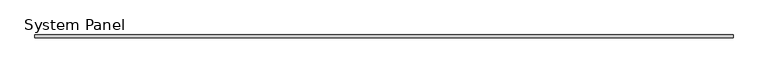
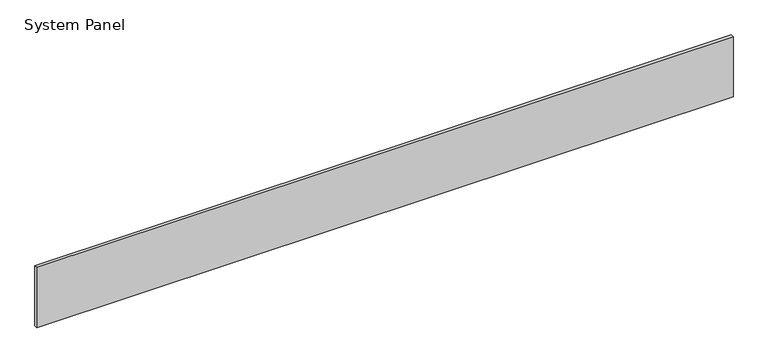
"""IFC4 building model written with IfcOpenShell, lengths in millimetres: plate geometry, System Panel : MetecnoPanel_50mm_Plain_Surfmist."""

import ifcopenshell
import ifcopenshell.guid

model = None  # the IFC model being written
_history = None  # IfcOwnerHistory: only IFC2X3 demands one
_inside = {}  # id of a spatial element -> (the spatial element, [elements in it])
_under = {}  # id of a project, library or spatial element -> (it, [spatial elements below it])
_declared = {}  # id of a project -> (the project, [libraries it declares])
_typed = {}  # id of a type object -> (the type object, [elements of that type])
_made_of = {}  # id of a material, layer set ... -> (it, [elements and type objects made of it])


def new_model(schema):
    """Start an empty IFC model of exactly this schema.

    Asked for "IFC4X3", IfcOpenShell would pick the latest addendum, in which some entities
    have other attributes; the version numbers below select the first issue.
    IFC2X3 requires an IfcOwnerHistory on every rooted entity: one is made here for all.
    """
    global model, _history
    if schema == "IFC4X3":
        model = ifcopenshell.file(schema_version=(4, 3, 0, 0))
    else:
        model = ifcopenshell.file(schema=schema)
    _inside.clear()
    _under.clear()
    _declared.clear()
    _typed.clear()
    _made_of.clear()
    _history = None
    if model.schema == "IFC2X3":
        org = make("IfcOrganization", Name="unknown")
        user = make(
            "IfcPersonAndOrganization",
            ThePerson=make("IfcPerson", FamilyName="unknown"),
            TheOrganization=org,
        )
        app = make(
            "IfcApplication",
            ApplicationDeveloper=org,
            Version="unknown",
            ApplicationFullName="unknown",
            ApplicationIdentifier="unknown",
        )
        _history = make(
            "IfcOwnerHistory",
            OwningUser=user,
            OwningApplication=app,
            ChangeAction="ADDED",
            CreationDate=0,
        )
    return model


def make(cls, **values):
    """One entity of the class cls with the attributes given. An attribute that is None is left unset."""
    return model.create_entity(
        cls, **{name: value for name, value in values.items() if value is not None}
    )


def rooted(cls, **values):
    """An entity with a GlobalId (a new one), such as an element, a storey or a relation."""
    return make(cls, GlobalId=ifcopenshell.guid.new(), OwnerHistory=_history, **values)


def si_unit(unit_type, name, prefix=None):
    """IfcSIUnit, for example si_unit("LENGTHUNIT", "METRE", prefix="MILLI")."""
    return make("IfcSIUnit", UnitType=unit_type, Prefix=prefix, Name=name)


def assignment(units):
    """IfcUnitAssignment: the units of a project."""
    return None if units is None else make("IfcUnitAssignment", Units=units)


def point(xyz):
    """IfcCartesianPoint."""
    return None if xyz is None else make("IfcCartesianPoint", Coordinates=xyz)


def direction(xyz):
    """IfcDirection."""
    return None if xyz is None else make("IfcDirection", DirectionRatios=xyz)


def frame(location, z_axis=None, x_axis=None):
    """IfcAxis2Placement3D, a coordinate frame: its origin and axes. An axis left out is left unset."""
    return make(
        "IfcAxis2Placement3D",
        Location=point(location),
        Axis=direction(z_axis),
        RefDirection=direction(x_axis),
    )


def origin():
    """The frame at (0, 0, 0) with its axes left unset."""
    return frame((0.0, 0.0, 0.0))


def origin_with_axes():
    """The frame at (0, 0, 0) with the z axis (0, 0, 1) and the x axis (1, 0, 0) written out."""
    return frame((0.0, 0.0, 0.0), z_axis=(0.0, 0.0, 1.0), x_axis=(1.0, 0.0, 0.0))


def place(relative_to, where):
    """IfcLocalPlacement: puts the frame where relative to a parent placement (None: the world)."""
    return make(
        "IfcLocalPlacement", PlacementRelTo=relative_to, RelativePlacement=where
    )


def context(
    kind, dimensions, precision=None, world=None, true_north=None, identifier=None
):
    """IfcGeometricRepresentationContext, for example the 3D "Model" context."""
    return make(
        "IfcGeometricRepresentationContext",
        ContextIdentifier=identifier,
        ContextType=kind,
        CoordinateSpaceDimension=dimensions,
        Precision=precision,
        WorldCoordinateSystem=world,
        TrueNorth=true_north,
    )


def project(units=None, contexts=None):
    """IfcProject with its units and contexts."""
    return rooted(
        "IfcProject",
        Name="project",
        RepresentationContexts=contexts,
        UnitsInContext=assignment(units),
    )


def spatial(cls, under=None, at=None, **own):
    """A site, building, storey or space (cls), placed at a placement, below another one or the project."""
    s = rooted(cls, ObjectPlacement=at, **own)
    if under is not None:
        _under.setdefault(under.id(), (under, []))[1].append(s)
    return s


def polyline(points):
    """IfcPolyline through the points."""
    return make("IfcPolyline", Points=[point(p) for p in points])


def outline(outer, holes=None, kind="AREA"):
    """IfcArbitraryClosedProfileDef: a profile drawn as a closed curve; with holes, ...WithVoids."""
    if holes is None:
        return make("IfcArbitraryClosedProfileDef", ProfileType=kind, OuterCurve=outer)
    return make(
        "IfcArbitraryProfileDefWithVoids",
        ProfileType=kind,
        OuterCurve=outer,
        InnerCurves=holes,
    )


def extrude(swept, where, along, depth):
    """IfcExtrudedAreaSolid: the profile swept, set in the frame where, extruded along a direction by depth."""
    return make(
        "IfcExtrudedAreaSolid",
        SweptArea=swept,
        Position=where,
        ExtrudedDirection=direction(along),
        Depth=depth,
    )


def shape(context_of_items, identifier, shape_type, items):
    """IfcShapeRepresentation: the items that make up one representation, for example the "Body"."""
    return make(
        "IfcShapeRepresentation",
        ContextOfItems=context_of_items,
        RepresentationIdentifier=identifier,
        RepresentationType=shape_type,
        Items=items,
    )


def source(mapping_origin, context_of_items, identifier, shape_type, items):
    """IfcRepresentationMap: a shape defined once, which mapped items show again and again."""
    return make(
        "IfcRepresentationMap",
        MappingOrigin=mapping_origin,
        MappedRepresentation=shape(context_of_items, identifier, shape_type, items),
    )


def transform(
    local_origin,
    x_axis=None,
    y_axis=None,
    z_axis=None,
    scale=None,
    scale2=None,
    scale3=None,
    uniform=True,
):
    """IfcCartesianTransformationOperator3D, or its non-uniform kind. x_axis, y_axis, z_axis: its Axis1, 2, 3."""
    if uniform:
        return make(
            "IfcCartesianTransformationOperator3D",
            Axis1=direction(x_axis),
            Axis2=direction(y_axis),
            LocalOrigin=point(local_origin),
            Scale=scale,
            Axis3=direction(z_axis),
        )
    return make(
        "IfcCartesianTransformationOperator3DnonUniform",
        Axis1=direction(x_axis),
        Axis2=direction(y_axis),
        LocalOrigin=point(local_origin),
        Scale=scale,
        Axis3=direction(z_axis),
        Scale2=scale2,
        Scale3=scale3,
    )


def mapped(mapping_source, mapping_target):
    """IfcMappedItem: shows the shape of a source again, moved by a transform."""
    return make(
        "IfcMappedItem", MappingSource=mapping_source, MappingTarget=mapping_target
    )


def made_of(thing, what):
    """Note that an element or type object is made of a material, layer set ...; save() writes the relation."""
    if what is not None:
        _made_of.setdefault(what.id(), (what, []))[1].append(thing)
    return thing


def element(
    cls,
    number,
    at=None,
    inside=None,
    cuts=None,
    type_object=None,
    material=None,
    context=None,
    identifier="Body",
    shape_type=None,
    held_by="IfcProductDefinitionShape",
    body=None,
    shapes=None,
    **own,
):
    """One element of the class cls, such as IfcWall. Its Tag is "e" and its number.

    at: its placement. inside: the storey or other place that contains it. cuts: it is an
    opening in that element (IfcRelVoidsElement). A single representation is given by context,
    identifier, shape_type and body (its items); several are given by shapes. held_by: the class
    of the entity that holds the representations. save() writes the other relations.
    """
    e = rooted(cls, Tag="e%d" % number, ObjectPlacement=at, **own)
    if body is not None:
        shapes = [shape(context, identifier, shape_type, body)]
    if shapes is not None:
        e.Representation = make(held_by, Representations=shapes)
    if inside is not None:
        _inside.setdefault(inside.id(), (inside, []))[1].append(e)
    if cuts is not None:
        rooted(
            "IfcRelVoidsElement", RelatingBuildingElement=cuts, RelatedOpeningElement=e
        )
    if type_object is not None:
        _typed.setdefault(type_object.id(), (type_object, []))[1].append(e)
    return made_of(e, material)


def aggregate(whole, parts):
    """IfcRelAggregates: a whole, such as a stair, and the parts it consists of."""
    return rooted("IfcRelAggregates", RelatingObject=whole, RelatedObjects=parts)


def save(model, path):
    """Write the relations noted so far, then the file.

    IfcRelAggregates (storeys below a building ...), IfcRelContainedInSpatialStructure (elements
    in a storey), IfcRelDefinesByType, IfcRelAssociatesMaterial and IfcRelDeclares: one each for
    every whole, place, type object, material and project.
    """
    for whole, parts in _under.values():
        aggregate(whole, parts)
    for where, things in _inside.values():
        rooted(
            "IfcRelContainedInSpatialStructure",
            RelatedElements=things,
            RelatingStructure=where,
        )
    for kind, things in _typed.values():
        rooted("IfcRelDefinesByType", RelatedObjects=things, RelatingType=kind)
    for what, things in _made_of.values():
        rooted("IfcRelAssociatesMaterial", RelatedObjects=things, RelatingMaterial=what)
    for by, libraries in _declared.values():
        rooted("IfcRelDeclares", RelatingContext=by, RelatedDefinitions=libraries)
    model.write(path)


def system_panel_3cb5285a(model_context):
    return source(origin(), model_context, "Body", "SweptSolid", [
        extrude(outline(polyline([(6000.0, 0.0), (-6000.0, 0.0), (-6000.0, 50.0), (6000.0, 50.0), (6000.0, 0.0)])), origin_with_axes(), (0.0, 0.0, 1.0), 1100.0),
    ])


if __name__ == "__main__":
    model = new_model("IFC4")
    model_context = context("Model", 3, world=origin())
    ifc_project = project(units=[si_unit("LENGTHUNIT", "METRE", prefix="MILLI")], contexts=[model_context])
    site = spatial("IfcSite", under=ifc_project)
    building = spatial("IfcBuilding", under=site)
    placement = place(None, origin())
    system_panel_shape = system_panel_3cb5285a(model_context)
    element("IfcPlate", 1, ObjectType="System Panel : MetecnoPanel_50mm_Plain_Surfmist", at=placement, inside=building, context=model_context, shape_type="MappedRepresentation", body=[
        mapped(system_panel_shape, transform((0.0, 0.0, 0.0), x_axis=(1.0, 0.0, 0.0), y_axis=(0.0, 1.0, 0.0), z_axis=(0.0, 0.0, 1.0))),
    ])
    save(model, "model.ifc")
